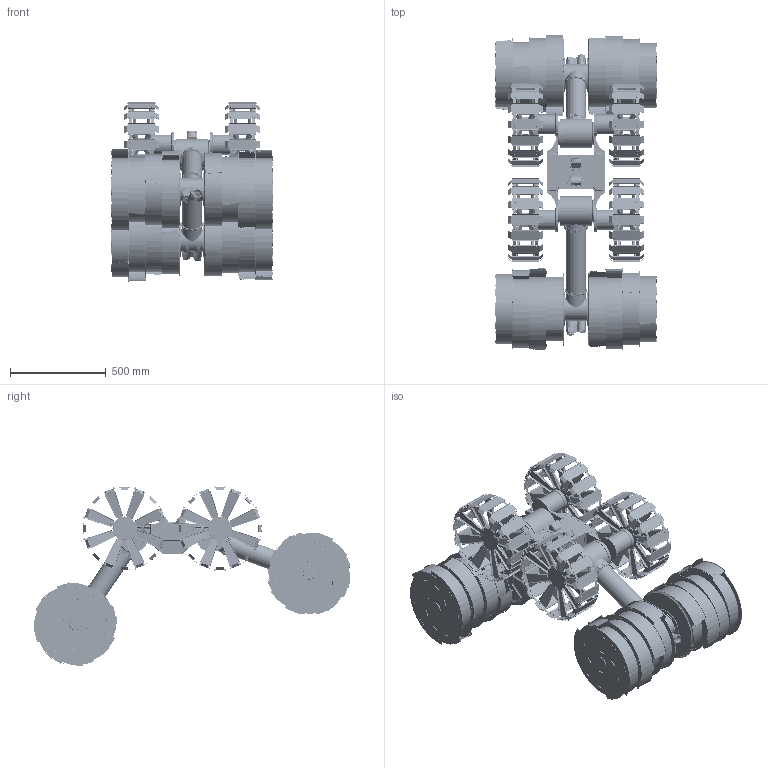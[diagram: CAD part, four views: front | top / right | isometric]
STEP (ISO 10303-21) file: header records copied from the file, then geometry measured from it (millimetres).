
FILE_DESCRIPTION((''),'2;1');
FILE_NAME('RASSOR2_ASM','2021-05-07T10:46:06',('jschuler'),('NASA_KSC'),'CREO PARAMETRIC BY PTC INC, 2020281','CREO PARAMETRIC BY PTC INC, 2020281','');
FILE_SCHEMA(('CONFIG_CONTROL_DESIGN'));
Length unit declared in the file: inch
Products named in the file (5): RSSR_AVNCS_ENC_SW0001; RSSR_WHEEL_ACT_TUBE_SW0001; RSSR_ARM_ACT_TUBE_SW0001; RSSR_WHEEL_SHEETMETAL_SW0001; RASSOR2_ASM
Assembly tree (11 placements, depth 2):
  RASSOR2_ASM
    RSSR_AVNCS_ENC_SW0001
    RSSR_WHEEL_ACT_TUBE_SW0001  x4
    RSSR_ARM_ACT_TUBE_SW0001  x2
    RSSR_WHEEL_SHEETMETAL_SW0001  x4
Bounding box: 848.23 x 1656.79 x 937.95 mm (x, y, z)
Volume: 20796780.8 mm3; surface area: 17209682.6 mm2
Topology: 25 solids, 40 shells, 29649 faces, 78780 edges, 49255 vertices
Faces by surface type: plane 13524, cylinder 11920, bspline 2055, torus 1091, cone 877, extrusion 94, sphere 88
Entity records: 615322 total; most frequent: CARTESIAN_POINT 275563, ORIENTED_EDGE 72454, DIRECTION 70757, EDGE_CURVE 36227, AXIS2_PLACEMENT_3D 26039, VERTEX_POINT 23038, VECTOR 18679, LINE 18585
